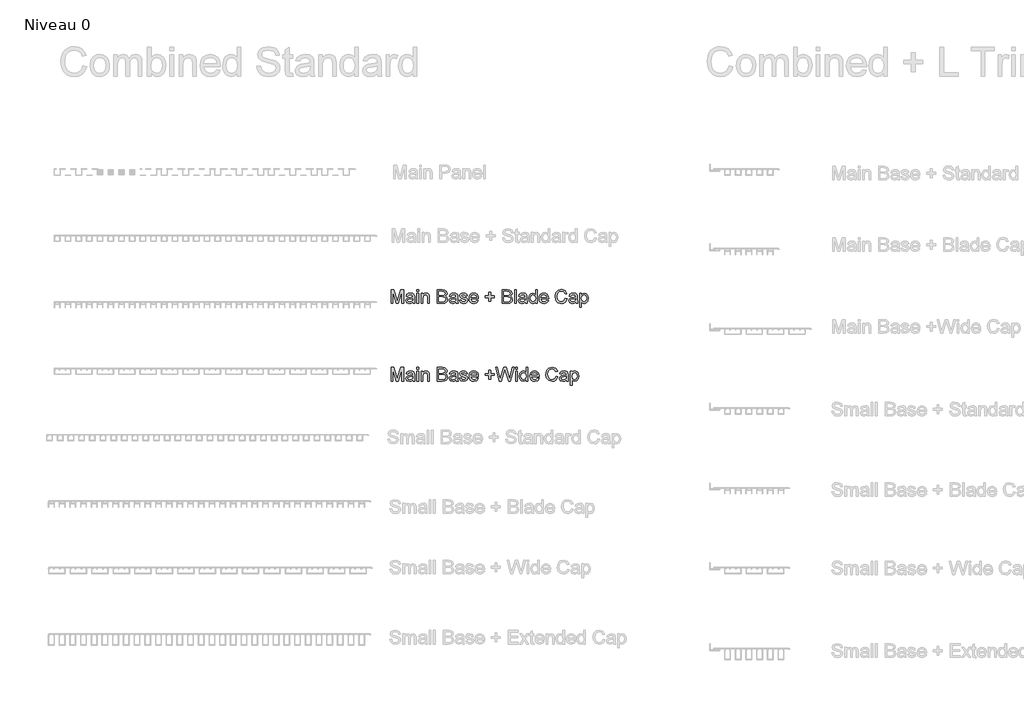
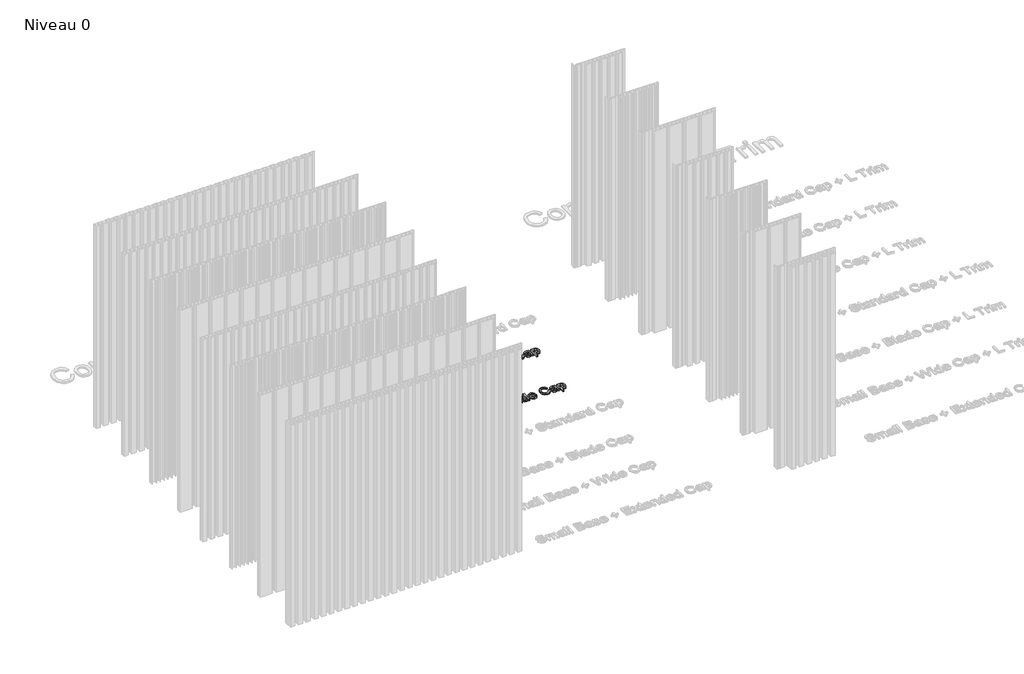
# One storey, part 6 of 25: 2 proxies.
"""IFC4 building model written with IfcOpenShell, lengths in millimetres."""

from ifc_helpers import new_model, si_unit, origin, origin_with_axes, place, context, project, spatial, polyline, outline, extrude, element, save

model = new_model("IFC4")

# Units and contexts
model_context = context("Model", 3, world=origin())
ifc_project = project(units=[si_unit("LENGTHUNIT", "METRE", prefix="MILLI")], contexts=[model_context])

# Site, building, storey
site = spatial("IfcSite", under=ifc_project)
building = spatial("IfcBuilding", under=site)
storey = spatial("IfcBuildingStorey", under=building, Name="Niveau 0", Elevation=0.0)

# Proxies
placement = place(None, origin())
element("IfcBuildingElementProxy", 1, Name="70mm Arial", ObjectType="70mm Arial", at=placement, inside=storey, context=model_context, shape_type="SweptSolid", body=[
    extrude(outline(polyline([(-1683.0782727, 3879.1281994), (-1683.0782727, 3949.4476165), (-1667.9534176, 3949.4476165), (-1653.5667791, 3899.8841016), (-1650.6654164, 3889.5319023), (-1647.5237042, 3900.7424929), (-1633.3774152, 3949.4476165), (-1618.2525601, 3949.4476165), (-1618.2525601, 3879.1281994), (-1627.0424872, 3879.1281994), (-1627.0424872, 3940.6576894), (-1644.7081806, 3879.1281994), (-1656.6226522, 3879.1281994), (-1674.2883456, 3940.6576894), (-1674.2883456, 3879.1281994), (-1683.0782727, 3879.1281994)])), origin_with_axes(), (0.0, 0.0, 1.0), 10.0),
    extrude(outline(polyline([(-1571.0067017, 3885.7206448), (-1579.5305275, 3879.763409), (-1588.9470803, 3878.0294585), (-1601.7113593, 3882.2012404), (-1606.1664103, 3892.8624606), (-1604.4839633, 3899.8154303), (-1600.063248, 3904.8627713), (-1593.9085822, 3907.7469661), (-1586.3032351, 3909.0688887), (-1571.0582052, 3912.0904262), (-1571.0067017, 3914.0475584), (-1573.4273652, 3920.5369968), (-1583.144355, 3923.0778351), (-1592.0372891, 3921.3868042), (-1596.2777422, 3915.3866489), (-1605.0676694, 3916.4853898), (-1601.2649958, 3925.069303), (-1593.6081452, 3930.0994761), (-1582.0112785, 3931.8677623), (-1571.3586422, 3930.3054901), (-1565.341319, 3926.3826417), (-1562.6459702, 3920.416822), (-1562.2167746, 3912.7256358), (-1562.2167746, 3901.7897303), (-1561.7704111, 3886.5189487), (-1560.0192928, 3879.1281994), (-1568.8092199, 3879.1281994), (-1571.0067017, 3885.7206448)]), holes=[polyline([(-1571.0067017, 3903.3004991), (-1585.1873264, 3900.6051503), (-1592.7497539, 3899.1802207), (-1596.1747353, 3896.8625641), (-1597.3764831, 3893.4805023), (-1594.7583896, 3888.7250144), (-1587.0757873, 3886.8193857), (-1578.1828532, 3888.9224444), (-1572.4487991, 3894.012705), (-1571.0582052, 3900.8111642), (-1571.0067017, 3903.3004991)])]), origin_with_axes(), (0.0, 0.0, 1.0), 10.0),
    extrude(outline(polyline([(-1550.1306248, 3879.1281994), (-1550.1306248, 3930.7690214), (-1541.3406976, 3930.7690214), (-1541.3406976, 3879.1281994), (-1550.1306248, 3879.1281994)])), origin_with_axes(), (0.0, 0.0, 1.0), 10.0),
    extrude(outline(polyline([(-1550.1306248, 3940.6576894), (-1550.1306248, 3949.4476165), (-1541.3406976, 3949.4476165), (-1541.3406976, 3940.6576894), (-1550.1306248, 3940.6576894)])), origin_with_axes(), (0.0, 0.0, 1.0), 10.0),
    extrude(outline(polyline([(-1528.1558069, 3879.1281994), (-1528.1558069, 3930.7690214), (-1519.3658798, 3930.7690214), (-1519.3658798, 3923.5585343), (-1512.6446757, 3929.7904553), (-1503.4684725, 3931.8677623), (-1495.1678284, 3930.1938992), (-1489.5024457, 3925.7989356), (-1486.8671843, 3919.335249), (-1486.403653, 3910.8371749), (-1486.403653, 3879.1281994), (-1495.1935802, 3879.1281994), (-1495.1935802, 3909.6525948), (-1496.2064819, 3917.4296202), (-1499.7859737, 3921.5413147), (-1505.8204647, 3923.0778351), (-1515.3571923, 3919.627102), (-1519.3658798, 3906.5280504), (-1519.3658798, 3879.1281994), (-1528.1558069, 3879.1281994)])), origin_with_axes(), (0.0, 0.0, 1.0), 10.0),
    extrude(outline(polyline([(-1445.75024, 3879.1281994), (-1445.75024, 3949.4476165), (-1418.9169273, 3949.4476165), (-1405.7749561, 3947.3788934), (-1398.0150986, 3941.0182138), (-1395.208159, 3932.0222727), (-1397.5687351, 3923.8074677), (-1404.701967, 3917.5841307), (-1396.0407985, 3911.026021), (-1393.0106772, 3900.0901155), (-1395.0794003, 3890.6392271), (-1400.2039964, 3883.9094391), (-1407.8522631, 3880.3385312), (-1419.1229412, 3879.1281994), (-1445.75024, 3879.1281994)]), holes=[polyline([(-1436.9603129, 3920.8803533), (-1420.9083951, 3920.8803533), (-1411.5347619, 3921.6357377), (-1405.8951309, 3924.8890408), (-1403.9980861, 3930.6145109), (-1405.7663722, 3936.348565), (-1410.830881, 3939.7392107), (-1422.1273108, 3940.6576894), (-1436.9603129, 3940.6576894), (-1436.9603129, 3920.8803533)]), polyline([(-1436.9603129, 3887.9181266), (-1418.9340951, 3887.9181266), (-1412.410321, 3888.2614831), (-1406.8908648, 3890.1756957), (-1403.2341178, 3894.0813763), (-1401.8006043, 3900.0042764), (-1403.4830513, 3906.8370713), (-1408.9338362, 3910.9144301), (-1419.7924864, 3912.0904262), (-1436.9603129, 3912.0904262), (-1436.9603129, 3887.9181266)])]), origin_with_axes(), (0.0, 0.0, 1.0), 10.0),
    extrude(outline(polyline([(-1349.0610415, 3885.7206448), (-1357.5848673, 3879.763409), (-1367.0014201, 3878.0294585), (-1379.7656991, 3882.2012404), (-1384.22075, 3892.8624606), (-1382.538303, 3899.8154303), (-1378.1175877, 3904.8627713), (-1371.962922, 3907.7469661), (-1364.3575748, 3909.0688887), (-1349.112545, 3912.0904262), (-1349.0610415, 3914.0475584), (-1351.481705, 3920.5369968), (-1361.1986948, 3923.0778351), (-1370.0916289, 3921.3868042), (-1374.332082, 3915.3866489), (-1383.1220091, 3916.4853898), (-1379.3193356, 3925.069303), (-1371.662485, 3930.0994761), (-1360.0656182, 3931.8677623), (-1349.4129819, 3930.3054901), (-1343.3956588, 3926.3826417), (-1340.70031, 3920.416822), (-1340.2711143, 3912.7256358), (-1340.2711143, 3901.7897303), (-1339.8247509, 3886.5189487), (-1338.0736326, 3879.1281994), (-1346.8635597, 3879.1281994), (-1349.0610415, 3885.7206448)]), holes=[polyline([(-1349.0610415, 3903.3004991), (-1363.2416661, 3900.6051503), (-1370.8040937, 3899.1802207), (-1374.229075, 3896.8625641), (-1375.4308229, 3893.4805023), (-1372.8127294, 3888.7250144), (-1365.130127, 3886.8193857), (-1356.2371929, 3888.9224444), (-1350.5031389, 3894.012705), (-1349.112545, 3900.8111642), (-1349.0610415, 3903.3004991)])]), origin_with_axes(), (0.0, 0.0, 1.0), 10.0),
    extrude(outline(polyline([(-1331.4811872, 3894.5105719), (-1322.6912601, 3895.6093128), (-1318.6224852, 3889.0855388), (-1309.3003554, 3886.8193857), (-1300.33875, 3888.8966927), (-1297.4202195, 3893.7723554), (-1300.3559179, 3897.7209555), (-1309.4033624, 3900.2274581), (-1322.6397566, 3904.5279987), (-1328.4167302, 3909.5495879), (-1330.3824463, 3916.6399002), (-1328.8030063, 3923.189426), (-1324.4938818, 3928.1938474), (-1318.9057543, 3930.7947731), (-1311.3433268, 3931.8677623), (-1300.6477709, 3930.1423957), (-1293.8493116, 3925.4727469), (-1290.8277742, 3917.5841307), (-1299.6177013, 3916.4853898), (-1302.9225079, 3921.3353007), (-1310.6566137, 3923.0778351), (-1319.0688487, 3921.412556), (-1321.5925192, 3917.5326272), (-1320.5452818, 3914.974621), (-1317.2662269, 3913.0346567), (-1309.6952154, 3911.1633636), (-1296.7935939, 3907.0259174), (-1290.8020225, 3902.3391008), (-1288.6302924, 3894.699418), (-1291.1797146, 3886.2871831), (-1298.5361283, 3880.1840208), (-1309.4205302, 3878.0294585), (-1324.7513992, 3882.1840725), (-1331.4811872, 3894.5105719)])), origin_with_axes(), (0.0, 0.0, 1.0), 10.0),
    extrude(outline(polyline([(-1242.5861819, 3894.5105719), (-1233.967933, 3893.411831), (-1242.0282275, 3882.0638978), (-1257.0414918, 3878.0294585), (-1267.3550635, 3879.7698469), (-1275.2908913, 3884.9910122), (-1280.3511081, 3893.3538896), (-1282.0378471, 3904.5194147), (-1280.3339403, 3916.0604861), (-1275.22222, 3924.6916108), (-1267.3936911, 3930.0737244), (-1257.5393587, 3931.8677623), (-1247.9919012, 3930.0780164), (-1240.3629484, 3924.7087786), (-1235.3606729, 3916.0948217), (-1233.6932478, 3904.5709182), (-1233.7447513, 3902.2017582), (-1273.2479199, 3902.2017582), (-1268.191995, 3890.7851536), (-1256.8698135, 3886.8193857), (-1248.2515646, 3888.6563431), (-1242.5861819, 3894.5105719)]), holes=[polyline([(-1273.2479199, 3910.9916853), (-1242.4831749, 3910.9916853), (-1246.0025794, 3918.9575568), (-1257.5736944, 3923.0778351), (-1268.3980089, 3919.7901964), (-1273.2479199, 3910.9916853)])]), origin_with_axes(), (0.0, 0.0, 1.0), 10.0),
    extrude(outline(polyline([(-1179.8549441, 3890.1156084), (-1179.8549441, 3908.7942035), (-1198.5335392, 3908.7942035), (-1198.5335392, 3917.5841307), (-1179.8549441, 3917.5841307), (-1179.8549441, 3936.2627258), (-1171.0650169, 3936.2627258), (-1171.0650169, 3917.5841307), (-1152.3864218, 3917.5841307), (-1152.3864218, 3908.7942035), (-1171.0650169, 3908.7942035), (-1171.0650169, 3890.1156084), (-1179.8549441, 3890.1156084)])), origin_with_axes(), (0.0, 0.0, 1.0), 10.0),
    extrude(outline(polyline([(-1111.7330088, 3879.1281994), (-1111.7330088, 3949.4476165), (-1084.899696, 3949.4476165), (-1071.7577249, 3947.3788934), (-1063.9978673, 3941.0182138), (-1061.1909277, 3932.0222727), (-1063.5515038, 3923.8074677), (-1070.6847357, 3917.5841307), (-1062.0235673, 3911.026021), (-1058.9934459, 3900.0901155), (-1061.062169, 3890.6392271), (-1066.1867652, 3883.9094391), (-1073.8350319, 3880.3385312), (-1085.1057099, 3879.1281994), (-1111.7330088, 3879.1281994)]), holes=[polyline([(-1102.9430816, 3887.9181266), (-1084.9168638, 3887.9181266), (-1078.3930898, 3888.2614831), (-1072.8736336, 3890.1756957), (-1069.2168866, 3894.0813763), (-1067.7833731, 3900.0042764), (-1069.4658201, 3906.8370713), (-1074.9166049, 3910.9144301), (-1085.7752552, 3912.0904262), (-1102.9430816, 3912.0904262), (-1102.9430816, 3887.9181266)]), polyline([(-1102.9430816, 3920.8803533), (-1086.8911639, 3920.8803533), (-1077.5175307, 3921.6357377), (-1071.8778997, 3924.8890408), (-1069.9808548, 3930.6145109), (-1071.749141, 3936.348565), (-1076.8136498, 3939.7392107), (-1088.1100796, 3940.6576894), (-1102.9430816, 3940.6576894), (-1102.9430816, 3920.8803533)])]), origin_with_axes(), (0.0, 0.0, 1.0), 10.0),
    extrude(outline(polyline([(-1048.006037, 3879.1281994), (-1048.006037, 3949.4476165), (-1039.2161099, 3949.4476165), (-1039.2161099, 3879.1281994), (-1048.006037, 3879.1281994)])), origin_with_axes(), (0.0, 0.0, 1.0), 10.0),
    extrude(outline(polyline([(-993.0689924, 3885.7206448), (-1001.5928182, 3879.763409), (-1011.009371, 3878.0294585), (-1023.77365, 3882.2012404), (-1028.2287009, 3892.8624606), (-1026.5462539, 3899.8154303), (-1022.1255386, 3904.8627713), (-1015.9708729, 3907.7469661), (-1008.3655257, 3909.0688887), (-993.1204959, 3912.0904262), (-993.0689924, 3914.0475584), (-995.4896559, 3920.5369968), (-1005.2066457, 3923.0778351), (-1014.0995798, 3921.3868042), (-1018.3400329, 3915.3866489), (-1027.12996, 3916.4853898), (-1023.3272865, 3925.069303), (-1015.6704359, 3930.0994761), (-1004.0735691, 3931.8677623), (-993.4209328, 3930.3054901), (-987.4036097, 3926.3826417), (-984.7082609, 3920.416822), (-984.2790652, 3912.7256358), (-984.2790652, 3901.7897303), (-983.8327018, 3886.5189487), (-982.0815835, 3879.1281994), (-990.8715106, 3879.1281994), (-993.0689924, 3885.7206448)]), holes=[polyline([(-993.0689924, 3903.3004991), (-1007.249617, 3900.6051503), (-1014.8120446, 3899.1802207), (-1018.237026, 3896.8625641), (-1019.4387738, 3893.4805023), (-1016.8206803, 3888.7250144), (-1009.1380779, 3886.8193857), (-1000.2451438, 3888.9224444), (-994.5110898, 3894.012705), (-993.1204959, 3900.8111642), (-993.0689924, 3903.3004991)])]), origin_with_axes(), (0.0, 0.0, 1.0), 10.0),
    extrude(outline(polyline([(-940.3294296, 3879.1281994), (-940.3294296, 3887.4202596), (-946.1450308, 3880.3771588), (-954.1838655, 3878.0294585), (-965.0682675, 3881.4286882), (-972.7594537, 3890.9139123), (-975.4891381, 3904.8971069), (-972.9740515, 3918.8888855), (-965.4373757, 3928.5200361), (-954.2182011, 3931.8677623), (-946.1149871, 3929.4728505), (-940.3294296, 3923.2495134), (-940.3294296, 3949.4476165), (-931.5395024, 3949.4476165), (-931.5395024, 3879.1281994), (-940.3294296, 3879.1281994)]), holes=[polyline([(-966.699211, 3904.9314426), (-962.7334431, 3891.3259401), (-953.3769777, 3886.8193857), (-944.1321031, 3891.1199262), (-940.3294296, 3904.2618973), (-944.2007744, 3918.5283611), (-953.737502, 3923.0778351), (-962.9909605, 3918.7086233), (-966.699211, 3904.9314426)])]), origin_with_axes(), (0.0, 0.0, 1.0), 10.0),
    extrude(outline(polyline([(-882.1991692, 3894.5105719), (-873.5809204, 3893.411831), (-881.6412149, 3882.0638978), (-896.6544791, 3878.0294585), (-906.9680508, 3879.7698469), (-914.9038786, 3884.9910122), (-919.9640954, 3893.3538896), (-921.6508344, 3904.5194147), (-919.9469276, 3916.0604861), (-914.8352073, 3924.6916108), (-907.0066784, 3930.0737244), (-897.1523461, 3931.8677623), (-887.6048886, 3930.0780164), (-879.9759357, 3924.7087786), (-874.9736603, 3916.0948217), (-873.3062351, 3904.5709182), (-873.3577386, 3902.2017582), (-912.8609073, 3902.2017582), (-907.8049824, 3890.7851536), (-896.4828008, 3886.8193857), (-887.864552, 3888.6563431), (-882.1991692, 3894.5105719)]), holes=[polyline([(-912.8609073, 3910.9916853), (-882.0961623, 3910.9916853), (-885.6155667, 3918.9575568), (-897.1866817, 3923.0778351), (-908.0109963, 3919.7901964), (-912.8609073, 3910.9916853)])]), origin_with_axes(), (0.0, 0.0, 1.0), 10.0),
    extrude(outline(polyline([(-786.5057046, 3904.1245547), (-777.7157775, 3901.8584016), (-781.7716765, 3891.6156472), (-788.1366482, 3884.1326208), (-796.4973796, 3879.5552491), (-806.5405581, 3878.0294585), (-824.8328772, 3882.6476039), (-835.5627687, 3896.0213406), (-839.2452675, 3914.8201106), (-835.0820696, 3933.9279014), (-823.2448532, 3946.3144882), (-806.351712, 3950.5463574), (-788.746106, 3945.0698208), (-778.8145184, 3929.6531126), (-787.6044455, 3927.5586378), (-794.8149326, 3938.3657846), (-806.6950685, 3941.7564303), (-820.4464975, 3937.9966763), (-828.214939, 3927.9019944), (-830.4553403, 3914.8372784), (-827.8029111, 3899.6952555), (-819.5451866, 3890.0211853), (-807.4161172, 3886.8193857), (-793.9651252, 3891.1800136), (-786.5057046, 3904.1245547)])), origin_with_axes(), (0.0, 0.0, 1.0), 10.0),
    extrude(outline(polyline([(-733.7661418, 3885.7206448), (-742.2899676, 3879.763409), (-751.7065204, 3878.0294585), (-764.4707994, 3882.2012404), (-768.9258504, 3892.8624606), (-767.2434034, 3899.8154303), (-762.8226881, 3904.8627713), (-756.6680223, 3907.7469661), (-749.0626752, 3909.0688887), (-733.8176453, 3912.0904262), (-733.7661418, 3914.0475584), (-736.1868053, 3920.5369968), (-745.9037951, 3923.0778351), (-754.7967292, 3921.3868042), (-759.0371823, 3915.3866489), (-767.8271095, 3916.4853898), (-764.0244359, 3925.069303), (-756.3675853, 3930.0994761), (-744.7707186, 3931.8677623), (-734.1180823, 3930.3054901), (-728.1007591, 3926.3826417), (-725.4054103, 3920.416822), (-724.9762147, 3912.7256358), (-724.9762147, 3901.7897303), (-724.5298512, 3886.5189487), (-722.7787329, 3879.1281994), (-731.56866, 3879.1281994), (-733.7661418, 3885.7206448)]), holes=[polyline([(-733.7661418, 3903.3004991), (-747.9467665, 3900.6051503), (-755.509194, 3899.1802207), (-758.9341754, 3896.8625641), (-760.1359232, 3893.4805023), (-757.5178297, 3888.7250144), (-749.8352274, 3886.8193857), (-740.9422933, 3888.9224444), (-735.2082392, 3894.012705), (-733.8176453, 3900.8111642), (-733.7661418, 3903.3004991)])]), origin_with_axes(), (0.0, 0.0, 1.0), 10.0),
    extrude(outline(polyline([(-712.8900649, 3859.3508634), (-712.8900649, 3930.7690214), (-704.1001377, 3930.7690214), (-704.1001377, 3922.1507725), (-698.0227272, 3929.4385148), (-689.8165061, 3931.8677623), (-678.6745868, 3928.4685326), (-671.3954284, 3918.8888855), (-668.9404292, 3905.3434704), (-671.7130331, 3891.1027584), (-679.7647437, 3881.4029364), (-690.8809114, 3878.0294585), (-698.529178, 3880.2870277), (-704.1001377, 3885.99533), (-704.1001377, 3859.3508634), (-712.8900649, 3859.3508634)]), holes=[polyline([(-704.1001377, 3904.5365826), (-700.2974642, 3891.1456779), (-691.0697575, 3886.8193857), (-681.6532046, 3891.3001884), (-677.7303563, 3905.18896), (-681.5587816, 3918.6142002), (-690.7092331, 3923.0778351), (-700.0399468, 3918.3309311), (-704.1001377, 3904.5365826)])]), origin_with_axes(), (0.0, 0.0, 1.0), 10.0),
])
element("IfcBuildingElementProxy", 2, Name="70mm Arial", ObjectType="70mm Arial", at=placement, inside=storey, context=model_context, shape_type="SweptSolid", body=[
    extrude(outline(polyline([(-1683.0782727, 3479.1281994), (-1683.0782727, 3549.4476165), (-1667.9534176, 3549.4476165), (-1653.5667791, 3499.8841016), (-1650.6654164, 3489.5319023), (-1647.5237042, 3500.7424929), (-1633.3774152, 3549.4476165), (-1618.2525601, 3549.4476165), (-1618.2525601, 3479.1281994), (-1627.0424872, 3479.1281994), (-1627.0424872, 3540.6576894), (-1644.7081806, 3479.1281994), (-1656.6226522, 3479.1281994), (-1674.2883456, 3540.6576894), (-1674.2883456, 3479.1281994), (-1683.0782727, 3479.1281994)])), origin_with_axes(), (0.0, 0.0, 1.0), 10.0),
    extrude(outline(polyline([(-1571.0067017, 3485.7206448), (-1579.5305275, 3479.763409), (-1588.9470803, 3478.0294585), (-1601.7113593, 3482.2012404), (-1606.1664103, 3492.8624606), (-1604.4839633, 3499.8154303), (-1600.063248, 3504.8627713), (-1593.9085822, 3507.7469661), (-1586.3032351, 3509.0688887), (-1571.0582052, 3512.0904262), (-1571.0067017, 3514.0475584), (-1573.4273652, 3520.5369968), (-1583.144355, 3523.0778351), (-1592.0372891, 3521.3868042), (-1596.2777422, 3515.3866489), (-1605.0676694, 3516.4853898), (-1601.2649958, 3525.069303), (-1593.6081452, 3530.0994761), (-1582.0112785, 3531.8677623), (-1571.3586422, 3530.3054901), (-1565.341319, 3526.3826417), (-1562.6459702, 3520.416822), (-1562.2167746, 3512.7256358), (-1562.2167746, 3501.7897303), (-1561.7704111, 3486.5189487), (-1560.0192928, 3479.1281994), (-1568.8092199, 3479.1281994), (-1571.0067017, 3485.7206448)]), holes=[polyline([(-1571.0067017, 3503.3004991), (-1585.1873264, 3500.6051503), (-1592.7497539, 3499.1802207), (-1596.1747353, 3496.8625641), (-1597.3764831, 3493.4805023), (-1594.7583896, 3488.7250144), (-1587.0757873, 3486.8193857), (-1578.1828532, 3488.9224444), (-1572.4487991, 3494.012705), (-1571.0582052, 3500.8111642), (-1571.0067017, 3503.3004991)])]), origin_with_axes(), (0.0, 0.0, 1.0), 10.0),
    extrude(outline(polyline([(-1550.1306248, 3479.1281994), (-1550.1306248, 3530.7690214), (-1541.3406976, 3530.7690214), (-1541.3406976, 3479.1281994), (-1550.1306248, 3479.1281994)])), origin_with_axes(), (0.0, 0.0, 1.0), 10.0),
    extrude(outline(polyline([(-1550.1306248, 3540.6576894), (-1550.1306248, 3549.4476165), (-1541.3406976, 3549.4476165), (-1541.3406976, 3540.6576894), (-1550.1306248, 3540.6576894)])), origin_with_axes(), (0.0, 0.0, 1.0), 10.0),
    extrude(outline(polyline([(-1528.1558069, 3479.1281994), (-1528.1558069, 3530.7690214), (-1519.3658798, 3530.7690214), (-1519.3658798, 3523.5585343), (-1512.6446757, 3529.7904553), (-1503.4684725, 3531.8677623), (-1495.1678284, 3530.1938992), (-1489.5024457, 3525.7989356), (-1486.8671843, 3519.335249), (-1486.403653, 3510.8371749), (-1486.403653, 3479.1281994), (-1495.1935802, 3479.1281994), (-1495.1935802, 3509.6525948), (-1496.2064819, 3517.4296202), (-1499.7859737, 3521.5413147), (-1505.8204647, 3523.0778351), (-1515.3571923, 3519.627102), (-1519.3658798, 3506.5280504), (-1519.3658798, 3479.1281994), (-1528.1558069, 3479.1281994)])), origin_with_axes(), (0.0, 0.0, 1.0), 10.0),
    extrude(outline(polyline([(-1445.75024, 3479.1281994), (-1445.75024, 3549.4476165), (-1418.9169273, 3549.4476165), (-1405.7749561, 3547.3788934), (-1398.0150986, 3541.0182138), (-1395.208159, 3532.0222727), (-1397.5687351, 3523.8074677), (-1404.701967, 3517.5841307), (-1396.0407985, 3511.026021), (-1393.0106772, 3500.0901155), (-1395.0794003, 3490.6392271), (-1400.2039964, 3483.9094391), (-1407.8522631, 3480.3385312), (-1419.1229412, 3479.1281994), (-1445.75024, 3479.1281994)]), holes=[polyline([(-1436.9603129, 3520.8803533), (-1420.9083951, 3520.8803533), (-1411.5347619, 3521.6357377), (-1405.8951309, 3524.8890408), (-1403.9980861, 3530.6145109), (-1405.7663722, 3536.348565), (-1410.830881, 3539.7392107), (-1422.1273108, 3540.6576894), (-1436.9603129, 3540.6576894), (-1436.9603129, 3520.8803533)]), polyline([(-1436.9603129, 3487.9181266), (-1418.9340951, 3487.9181266), (-1412.410321, 3488.2614831), (-1406.8908648, 3490.1756957), (-1403.2341178, 3494.0813763), (-1401.8006043, 3500.0042764), (-1403.4830513, 3506.8370713), (-1408.9338362, 3510.9144301), (-1419.7924864, 3512.0904262), (-1436.9603129, 3512.0904262), (-1436.9603129, 3487.9181266)])]), origin_with_axes(), (0.0, 0.0, 1.0), 10.0),
    extrude(outline(polyline([(-1349.0610415, 3485.7206448), (-1357.5848673, 3479.763409), (-1367.0014201, 3478.0294585), (-1379.7656991, 3482.2012404), (-1384.22075, 3492.8624606), (-1382.538303, 3499.8154303), (-1378.1175877, 3504.8627713), (-1371.962922, 3507.7469661), (-1364.3575748, 3509.0688887), (-1349.112545, 3512.0904262), (-1349.0610415, 3514.0475584), (-1351.481705, 3520.5369968), (-1361.1986948, 3523.0778351), (-1370.0916289, 3521.3868042), (-1374.332082, 3515.3866489), (-1383.1220091, 3516.4853898), (-1379.3193356, 3525.069303), (-1371.662485, 3530.0994761), (-1360.0656182, 3531.8677623), (-1349.4129819, 3530.3054901), (-1343.3956588, 3526.3826417), (-1340.70031, 3520.416822), (-1340.2711143, 3512.7256358), (-1340.2711143, 3501.7897303), (-1339.8247509, 3486.5189487), (-1338.0736326, 3479.1281994), (-1346.8635597, 3479.1281994), (-1349.0610415, 3485.7206448)]), holes=[polyline([(-1349.0610415, 3503.3004991), (-1363.2416661, 3500.6051503), (-1370.8040937, 3499.1802207), (-1374.229075, 3496.8625641), (-1375.4308229, 3493.4805023), (-1372.8127294, 3488.7250144), (-1365.130127, 3486.8193857), (-1356.2371929, 3488.9224444), (-1350.5031389, 3494.012705), (-1349.112545, 3500.8111642), (-1349.0610415, 3503.3004991)])]), origin_with_axes(), (0.0, 0.0, 1.0), 10.0),
    extrude(outline(polyline([(-1331.4811872, 3494.5105719), (-1322.6912601, 3495.6093128), (-1318.6224852, 3489.0855388), (-1309.3003554, 3486.8193857), (-1300.33875, 3488.8966927), (-1297.4202195, 3493.7723554), (-1300.3559179, 3497.7209555), (-1309.4033624, 3500.2274581), (-1322.6397566, 3504.5279987), (-1328.4167302, 3509.5495879), (-1330.3824463, 3516.6399002), (-1328.8030063, 3523.189426), (-1324.4938818, 3528.1938474), (-1318.9057543, 3530.7947731), (-1311.3433268, 3531.8677623), (-1300.6477709, 3530.1423957), (-1293.8493116, 3525.4727469), (-1290.8277742, 3517.5841307), (-1299.6177013, 3516.4853898), (-1302.9225079, 3521.3353007), (-1310.6566137, 3523.0778351), (-1319.0688487, 3521.412556), (-1321.5925192, 3517.5326272), (-1320.5452818, 3514.974621), (-1317.2662269, 3513.0346567), (-1309.6952154, 3511.1633636), (-1296.7935939, 3507.0259174), (-1290.8020225, 3502.3391008), (-1288.6302924, 3494.699418), (-1291.1797146, 3486.2871831), (-1298.5361283, 3480.1840208), (-1309.4205302, 3478.0294585), (-1324.7513992, 3482.1840725), (-1331.4811872, 3494.5105719)])), origin_with_axes(), (0.0, 0.0, 1.0), 10.0),
    extrude(outline(polyline([(-1242.5861819, 3494.5105719), (-1233.967933, 3493.411831), (-1242.0282275, 3482.0638978), (-1257.0414918, 3478.0294585), (-1267.3550635, 3479.7698469), (-1275.2908913, 3484.9910122), (-1280.3511081, 3493.3538896), (-1282.0378471, 3504.5194147), (-1280.3339403, 3516.0604861), (-1275.22222, 3524.6916108), (-1267.3936911, 3530.0737244), (-1257.5393587, 3531.8677623), (-1247.9919012, 3530.0780164), (-1240.3629484, 3524.7087786), (-1235.3606729, 3516.0948217), (-1233.6932478, 3504.5709182), (-1233.7447513, 3502.2017582), (-1273.2479199, 3502.2017582), (-1268.191995, 3490.7851536), (-1256.8698135, 3486.8193857), (-1248.2515646, 3488.6563431), (-1242.5861819, 3494.5105719)]), holes=[polyline([(-1273.2479199, 3510.9916853), (-1242.4831749, 3510.9916853), (-1246.0025794, 3518.9575568), (-1257.5736944, 3523.0778351), (-1268.3980089, 3519.7901964), (-1273.2479199, 3510.9916853)])]), origin_with_axes(), (0.0, 0.0, 1.0), 10.0),
    extrude(outline(polyline([(-1179.8549441, 3490.1156084), (-1179.8549441, 3508.7942035), (-1198.5335392, 3508.7942035), (-1198.5335392, 3517.5841307), (-1179.8549441, 3517.5841307), (-1179.8549441, 3536.2627258), (-1171.0650169, 3536.2627258), (-1171.0650169, 3517.5841307), (-1152.3864218, 3517.5841307), (-1152.3864218, 3508.7942035), (-1171.0650169, 3508.7942035), (-1171.0650169, 3490.1156084), (-1179.8549441, 3490.1156084)])), origin_with_axes(), (0.0, 0.0, 1.0), 10.0),
    extrude(outline(polyline([(-1126.6175143, 3479.1281994), (-1145.7939764, 3549.4476165), (-1136.7293641, 3549.4476165), (-1125.6046125, 3503.2318278), (-1122.1710472, 3488.965364), (-1118.4971324, 3501.5837164), (-1104.5568573, 3549.4476165), (-1091.4921414, 3549.4476165), (-1081.3631238, 3514.7514393), (-1073.826448, 3488.965364), (-1070.4958896, 3502.8197999), (-1059.2681311, 3549.4476165), (-1050.2035188, 3549.4476165), (-1069.3971487, 3479.1281994), (-1078.7879498, 3479.1281994), (-1095.6467554, 3533.378531), (-1097.9987476, 3540.9495424), (-1100.6425929, 3531.8334266), (-1116.0077975, 3479.1281994), (-1126.6175143, 3479.1281994)])), origin_with_axes(), (0.0, 0.0, 1.0), 10.0),
    extrude(outline(polyline([(-1042.5123325, 3479.1281994), (-1042.5123325, 3530.7690214), (-1033.7224054, 3530.7690214), (-1033.7224054, 3479.1281994), (-1042.5123325, 3479.1281994)])), origin_with_axes(), (0.0, 0.0, 1.0), 10.0),
    extrude(outline(polyline([(-1042.5123325, 3540.6576894), (-1042.5123325, 3549.4476165), (-1033.7224054, 3549.4476165), (-1033.7224054, 3540.6576894), (-1042.5123325, 3540.6576894)])), origin_with_axes(), (0.0, 0.0, 1.0), 10.0),
    extrude(outline(polyline([(-988.6740288, 3479.1281994), (-988.6740288, 3487.4202596), (-994.48963, 3480.3771588), (-1002.5284648, 3478.0294585), (-1013.4128667, 3481.4286882), (-1021.104053, 3490.9139123), (-1023.8337374, 3504.8971069), (-1021.3186508, 3518.8888855), (-1013.781975, 3528.5200361), (-1002.5628004, 3531.8677623), (-994.4595863, 3529.4728505), (-988.6740288, 3523.2495134), (-988.6740288, 3549.4476165), (-979.8841017, 3549.4476165), (-979.8841017, 3479.1281994), (-988.6740288, 3479.1281994)]), holes=[polyline([(-1015.0438102, 3504.9314426), (-1011.0780423, 3491.3259401), (-1001.7215769, 3486.8193857), (-992.4767024, 3491.1199262), (-988.6740288, 3504.2618973), (-992.5453737, 3518.5283611), (-1002.0821013, 3523.0778351), (-1011.3355597, 3518.7086233), (-1015.0438102, 3504.9314426)])]), origin_with_axes(), (0.0, 0.0, 1.0), 10.0),
    extrude(outline(polyline([(-930.5437685, 3494.5105719), (-921.9255196, 3493.411831), (-929.9858141, 3482.0638978), (-944.9990784, 3478.0294585), (-955.3126501, 3479.7698469), (-963.2484779, 3484.9910122), (-968.3086947, 3493.3538896), (-969.9954336, 3504.5194147), (-968.2915269, 3516.0604861), (-963.1798066, 3524.6916108), (-955.3512777, 3530.0737244), (-945.4969453, 3531.8677623), (-935.9494878, 3530.0780164), (-928.320535, 3524.7087786), (-923.3182595, 3516.0948217), (-921.6508344, 3504.5709182), (-921.7023379, 3502.2017582), (-961.2055065, 3502.2017582), (-956.1495816, 3490.7851536), (-944.8274001, 3486.8193857), (-936.2091512, 3488.6563431), (-930.5437685, 3494.5105719)]), holes=[polyline([(-961.2055065, 3510.9916853), (-930.4407615, 3510.9916853), (-933.9601659, 3518.9575568), (-945.531281, 3523.0778351), (-956.3555955, 3519.7901964), (-961.2055065, 3510.9916853)])]), origin_with_axes(), (0.0, 0.0, 1.0), 10.0),
    extrude(outline(polyline([(-834.8503039, 3504.1245547), (-826.0603768, 3501.8584016), (-830.1162758, 3491.6156472), (-836.4812474, 3484.1326208), (-844.8419789, 3479.5552491), (-854.8851574, 3478.0294585), (-873.1774764, 3482.6476039), (-883.907368, 3496.0213406), (-887.5898667, 3514.8201106), (-883.4266688, 3533.9279014), (-871.5894525, 3546.3144882), (-854.6963113, 3550.5463574), (-837.0907053, 3545.0698208), (-827.1591177, 3529.6531126), (-835.9490448, 3527.5586378), (-843.1595319, 3538.3657846), (-855.0396678, 3541.7564303), (-868.7910968, 3537.9966763), (-876.5595382, 3527.9019944), (-878.7999396, 3514.8372784), (-876.1475104, 3499.6952555), (-867.8897859, 3490.0211853), (-855.7607165, 3486.8193857), (-842.3097245, 3491.1800136), (-834.8503039, 3504.1245547)])), origin_with_axes(), (0.0, 0.0, 1.0), 10.0),
    extrude(outline(polyline([(-782.1107411, 3485.7206448), (-790.6345669, 3479.763409), (-800.0511197, 3478.0294585), (-812.8153987, 3482.2012404), (-817.2704496, 3492.8624606), (-815.5880026, 3499.8154303), (-811.1672873, 3504.8627713), (-805.0126215, 3507.7469661), (-797.4072744, 3509.0688887), (-782.1622446, 3512.0904262), (-782.1107411, 3514.0475584), (-784.5314046, 3520.5369968), (-794.2483944, 3523.0778351), (-803.1413285, 3521.3868042), (-807.3817816, 3515.3866489), (-816.1717087, 3516.4853898), (-812.3690352, 3525.069303), (-804.7121846, 3530.0994761), (-793.1153178, 3531.8677623), (-782.4626815, 3530.3054901), (-776.4453583, 3526.3826417), (-773.7500096, 3520.416822), (-773.3208139, 3512.7256358), (-773.3208139, 3501.7897303), (-772.8744504, 3486.5189487), (-771.1233322, 3479.1281994), (-779.9132593, 3479.1281994), (-782.1107411, 3485.7206448)]), holes=[polyline([(-782.1107411, 3503.3004991), (-796.2913657, 3500.6051503), (-803.8537933, 3499.1802207), (-807.2787746, 3496.8625641), (-808.4805225, 3493.4805023), (-805.862429, 3488.7250144), (-798.1798266, 3486.8193857), (-789.2868925, 3488.9224444), (-783.5528385, 3494.012705), (-782.1622446, 3500.8111642), (-782.1107411, 3503.3004991)])]), origin_with_axes(), (0.0, 0.0, 1.0), 10.0),
    extrude(outline(polyline([(-761.2346641, 3459.3508634), (-761.2346641, 3530.7690214), (-752.444737, 3530.7690214), (-752.444737, 3522.1507725), (-746.3673264, 3529.4385148), (-738.1611054, 3531.8677623), (-727.019186, 3528.4685326), (-719.7400276, 3518.8888855), (-717.2850284, 3505.3434704), (-720.0576324, 3491.1027584), (-728.109343, 3481.4029364), (-739.2255106, 3478.0294585), (-746.8737773, 3480.2870277), (-752.444737, 3485.99533), (-752.444737, 3459.3508634), (-761.2346641, 3459.3508634)]), holes=[polyline([(-752.444737, 3504.5365826), (-748.6420634, 3491.1456779), (-739.4143567, 3486.8193857), (-729.9978039, 3491.3001884), (-726.0749556, 3505.18896), (-729.9033809, 3518.6142002), (-739.0538324, 3523.0778351), (-748.384546, 3518.3309311), (-752.444737, 3504.5365826)])]), origin_with_axes(), (0.0, 0.0, 1.0), 10.0),
])

save(model, "model.ifc")
